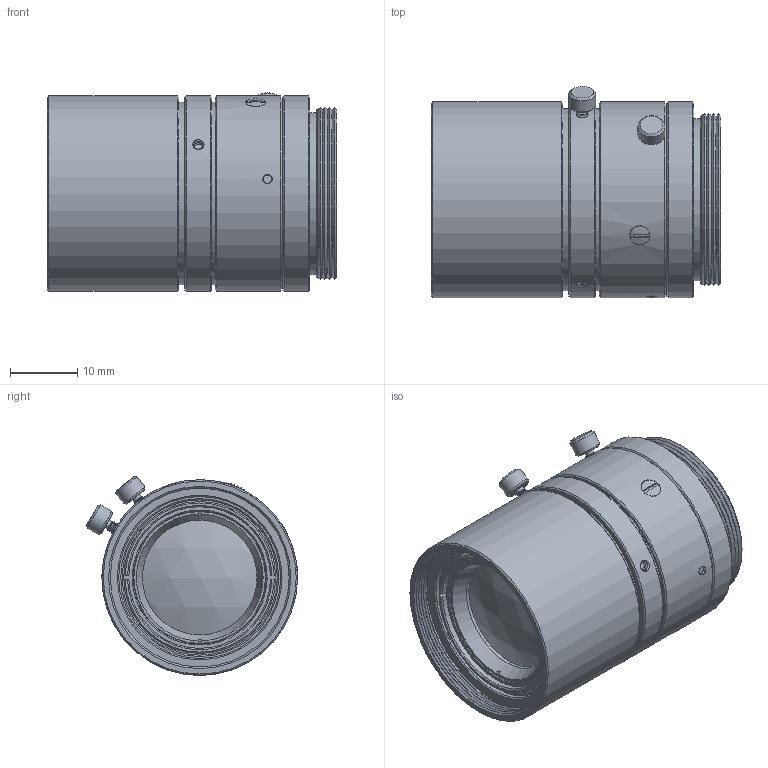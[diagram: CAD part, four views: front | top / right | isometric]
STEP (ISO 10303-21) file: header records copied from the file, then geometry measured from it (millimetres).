
FILE_DESCRIPTION(/* description */ (''),/* implementation_level */ '2;1');
FILE_NAME(/* name */ 'C:\#Vault-WorkDir\Konstruktions-Dokumente\Projekte\VISOR\Zubehör\153-13657_Objektiv LOC-35-HD-27x0,5.stp',/* time_stamp */ '2020-03-26T10:32:24+01:00',/* author */ ('SensoPart'),/* organization */ ('SensoPart'),/* preprocessor_version */ 'ST-DEVELOPER v17',/* originating_system */ 'Autodesk Inventor 2018',/* authorisation */ '');
FILE_SCHEMA (('AUTOMOTIVE_DESIGN { 1 0 10303 214 3 1 1 }'));
Length unit declared in the file: millimetre
Products named in the file (1): GH-ENG-0031472
Bounding box: 42.87 x 31.28 x 29.45 mm (x, y, z)
Volume: 20738.8 mm3; surface area: 10912.4 mm2
Topology: 1 solids, 9 shells, 320 faces, 881 edges, 600 vertices
Faces by surface type: cone 151, plane 96, cylinder 69, sphere 4
Full cylindrical faces by diameter (mm): 1.3 x2, 1.5 x4, 2 x4, 4 x2, 11.8 x1, 14 x1, 17 x1, 21 x1, 22.5 x1, 23 x1, 24 x2, 24.5 x1, 27 x2, 27.5 x3, 28 x1, 28.2 x1, 29 x4
Entity records: 10955 total; most frequent: CARTESIAN_POINT 2279, DIRECTION 1969, ORIENTED_EDGE 1762, EDGE_CURVE 881, AXIS2_PLACEMENT_3D 802, VERTEX_POINT 600, CIRCLE 481, LINE 365
